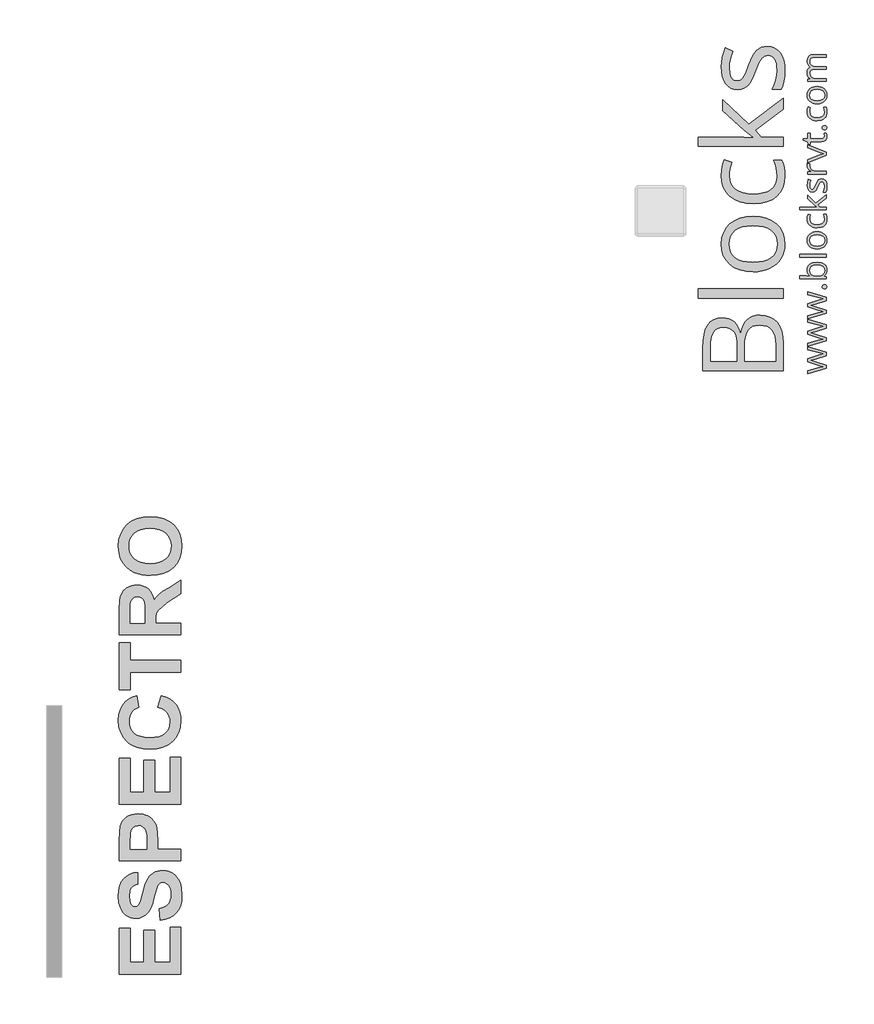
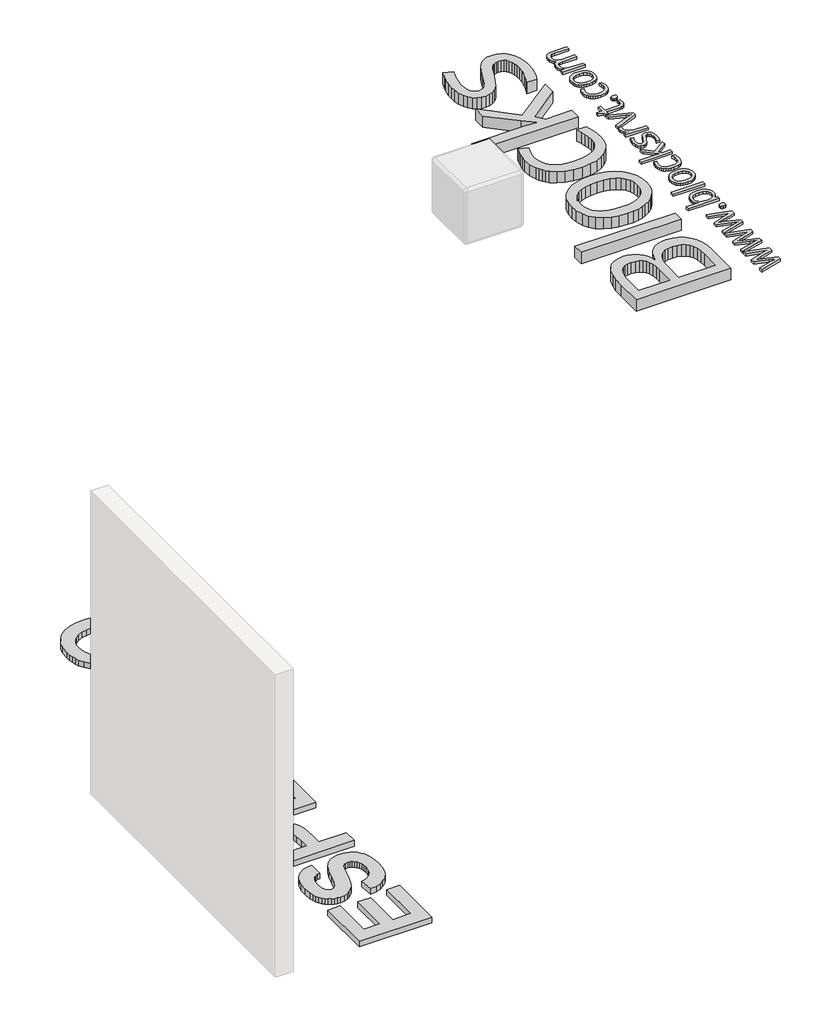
# One storey, part 9 of 9: 3 proxies.
"""IFC4 building model written with IfcOpenShell, lengths in millimetres."""

from ifc_helpers import new_model, si_unit, origin, origin_with_axes, place, context, project, spatial, polyline, outline, extrude, element, save

model = new_model("IFC4")

# Units and contexts
model_context = context("Model", 3, world=origin())
ifc_project = project(units=[si_unit("LENGTHUNIT", "METRE", prefix="MILLI")], contexts=[model_context])

# Site, building, storey
site = spatial("IfcSite", under=ifc_project)
building = spatial("IfcBuilding", under=site)
storey = spatial("IfcBuildingStorey", under=building, Name="PORTOBELLO - SHOWROOM", Elevation=0.0)

# Proxies
placement = place(None, origin())
element("IfcBuildingElementProxy", 1, Name="25mm OpenSans", ObjectType="25mm OpenSans", at=placement, inside=storey, context=model_context, shape_type="SweptSolid", body=[
    extrude(outline(polyline([(135430.4102045, 12378.2707391), (135320.5985611, 12343.7906327), (135274.8749417, 12331.5726819), (135320.9733449, 12318.1554231), (135430.4102045, 12282.6259221), (135430.4102045, 12249.7199075), (135243.3181486, 12198.3745316), (135243.3181486, 12228.2073193), (135350.6562191, 12255.941318), (135400.3525464, 12266.8850039), (135375.1670774, 12274.3057225), (135350.6562191, 12281.6514843), (135243.3181486, 12316.1315908), (135243.3181486, 12347.013773), (135350.7311759, 12380.6693552), (135400.0527194, 12393.7118302), (135381.0886609, 12398.8088895), (135243.3181486, 12434.5632607), (135243.3181486, 12464.0962214), (135430.4102045, 12412.0762348), (135430.4102045, 12378.2707391)])), origin_with_axes(), (0.0, 0.0, 1.0), 20.0),
    extrude(outline(polyline([(135430.4102045, 12651.7129745), (135320.5985611, 12617.2328681), (135274.8749417, 12605.0149173), (135320.9733449, 12591.5976585), (135430.4102045, 12556.0681575), (135430.4102045, 12523.1621429), (135243.3181486, 12471.816767), (135243.3181486, 12501.6495548), (135350.6562191, 12529.3835534), (135400.3525464, 12540.3272394), (135375.1670774, 12547.7479579), (135350.6562191, 12555.0937197), (135243.3181486, 12589.5738262), (135243.3181486, 12620.4560085), (135350.7311759, 12654.1115906), (135400.0527194, 12667.1540657), (135381.0886609, 12672.2511249), (135243.3181486, 12708.0054961), (135243.3181486, 12737.5384569), (135430.4102045, 12685.5184702), (135430.4102045, 12651.7129745)])), origin_with_axes(), (0.0, 0.0, 1.0), 20.0),
    extrude(outline(polyline([(135430.4102045, 12925.1552099), (135320.5985611, 12890.6751035), (135274.8749417, 12878.4571527), (135320.9733449, 12865.0398939), (135430.4102045, 12829.5103929), (135430.4102045, 12796.6043783), (135243.3181486, 12745.2590024), (135243.3181486, 12775.0917902), (135350.6562191, 12802.8257888), (135400.3525464, 12813.7694748), (135375.1670774, 12821.1901934), (135350.6562191, 12828.5359552), (135243.3181486, 12863.0160616), (135243.3181486, 12893.8982439), (135350.7311759, 12927.553826), (135400.0527194, 12940.5963011), (135381.0886609, 12945.6933603), (135243.3181486, 12981.4477315), (135243.3181486, 13010.9806923), (135430.4102045, 12958.9607056), (135430.4102045, 12925.1552099)])), origin_with_axes(), (0.0, 0.0, 1.0), 20.0),
    extrude(outline(polyline([(135411.2962324, 13040.1388692), (135400.8866133, 13041.4412428), (135393.34409, 13045.3483636), (135388.7623585, 13051.6915788), (135387.2351146, 13060.3022358), (135388.7623585, 13069.1658719), (135393.34409, 13075.8182837), (135400.8866133, 13079.9783835), (135411.2962324, 13081.3650835), (135421.4997204, 13079.9502748), (135429.0235045, 13075.7058486), (135433.6614536, 13069.025328), (135435.2074367, 13060.3022358), (135429.6231585, 13045.8730609), (135422.249288, 13041.5724172), (135411.2962324, 13040.1388692)])), origin_with_axes(), (0.0, 0.0, 1.0), 20.0),
    extrude(outline(polyline([(135238.5209164, 13228.5051899), (135240.1207746, 13246.0895757), (135244.9203492, 13261.5892268), (135252.9196402, 13275.0041432), (135264.1186476, 13286.3343249), (135278.2409684, 13295.3361625), (135295.0101995, 13301.7660465), (135336.4893928, 13306.9099536), (135378.10913, 13301.7191985), (135394.9978234, 13295.2307545), (135409.2724001, 13286.146933), (135420.6189786, 13274.7628761), (135428.7236775, 13261.3737261), (135433.5864969, 13245.9794829), (135435.2074367, 13228.5801466), (135433.4928009, 13210.9372009), (135428.3488937, 13194.8870861), (135419.6445408, 13180.8795428), (135407.2485677, 13169.3643116), (135407.2485677, 13167.2655226), (135430.4102045, 13161.2689823), (135430.4102045, 13140.9557022), (135166.5624334, 13140.9557022), (135166.5624334, 13169.2893549), (135229.1513223, 13169.2893549), (135266.9295259, 13167.9401333), (135254.5007592, 13180.4953895), (135245.6230688, 13194.1000402), (135240.2964545, 13210.103307), (135238.5209164, 13228.5051899)]), holes=[polyline([(135262.5070774, 13224.532482), (135266.742134, 13199.2626866), (135279.4473036, 13182.2193948), (135302.177939, 13172.5218649), (135336.4893928, 13169.2893549), (135370.9413904, 13172.6155608), (135393.9437441, 13182.5941786), (135406.9018928, 13199.899819), (135411.2212756, 13225.2070927), (135406.3771955, 13248.2844031), (135391.844955, 13264.5968665), (135368.2429473, 13274.2943964), (135336.1895658, 13277.5269064), (135303.7426613, 13274.2943964), (135280.7590468, 13264.5968665), (135267.0700698, 13248.1157504), (135262.5070774, 13224.532482)])]), origin_with_axes(), (0.0, 0.0, 1.0), 20.0),
    extrude(outline(polyline([(135430.4102045, 13384.1903661), (135430.4102045, 13355.8567134), (135166.5624334, 13355.8567134), (135166.5624334, 13384.1903661), (135430.4102045, 13384.1903661)])), origin_with_axes(), (0.0, 0.0, 1.0), 20.0),
    extrude(outline(polyline([(135336.714263, 13609.1355823), (135358.6414557, 13607.6950072), (135378.0248036, 13603.3732819), (135394.8643067, 13596.1704064), (135409.1599649, 13586.0863807), (135420.5557338, 13573.4678798), (135428.6955687, 13558.6615786), (135433.5794697, 13541.6674773), (135435.2074367, 13522.4855756), (135432.2185361, 13498.7898721), (135423.2518345, 13477.9237859), (135408.7008548, 13460.6931023), (135388.95912, 13447.9036063), (135364.7293495, 13439.9769296), (135336.714263, 13437.3347041), (135314.7964399, 13438.7635672), (135295.4412008, 13443.0501565), (135278.6485457, 13450.194472), (135264.4184746, 13460.1965138), (135253.0882929, 13472.7377156), (135244.995306, 13487.4995111), (135240.1395138, 13504.4819005), (135238.5209164, 13523.6848837), (135240.1769922, 13542.2811857), (135245.1452195, 13558.8677097), (135253.4255983, 13573.4444558), (135265.0181287, 13586.0114239), (135279.4355917, 13596.1282432), (135296.1907684, 13603.3545427), (135315.2836588, 13607.6903224), (135336.714263, 13609.1355823)]), holes=[polyline([(135336.4893928, 13466.7927081), (135368.6458399, 13470.371893), (135392.1073036, 13481.1094479), (135406.4427826, 13498.7805025), (135411.2212756, 13523.1601864), (135406.4615218, 13547.5586096), (135392.1822604, 13565.2858817), (135368.7395358, 13576.0796541), (135336.4893928, 13579.6775783), (135304.5671855, 13576.0796541), (135281.3587008, 13565.2858817), (135267.2199833, 13547.4649136), (135262.5070774, 13522.7854027), (135267.1543961, 13498.4525667), (135281.0963522, 13480.922056), (135304.2392497, 13470.3250451), (135336.4893928, 13466.7927081)])]), origin_with_axes(), (0.0, 0.0, 1.0), 20.0),
    extrude(outline(polyline([(135435.2074367, 13734.5382303), (135433.6216328, 13715.1947031), (135428.8642214, 13698.1654658), (135420.9352024, 13683.4505182), (135409.8345757, 13671.0498604), (135395.8340597, 13661.2117865), (135379.2053725, 13654.1845909), (135338.0634846, 13648.5628344), (135315.6162794, 13649.9893551), (135295.8722022, 13654.2689172), (135278.8312528, 13661.4015208), (135264.4934314, 13671.3871657), (135253.1304561, 13684.0103514), (135245.0140452, 13699.0555772), (135240.1441986, 13716.5228431), (135238.5209164, 13736.4121491), (135241.2943163, 13763.6589288), (135247.8155538, 13784.9841251), (135271.2770176, 13776.214185), (135265.0181287, 13755.4886428), (135262.5070774, 13735.6625816), (135267.1965593, 13710.4443189), (135281.2650049, 13692.4312742), (135304.7124142, 13681.6234473), (135337.5387873, 13678.0208384), (135369.0018844, 13681.5344362), (135392.1822604, 13692.0752296), (135406.4615218, 13709.5120443), (135411.2212756, 13733.713706), (135408.6914852, 13757.6811278), (135401.102114, 13782.2107252), (135425.7628858, 13782.2107252), (135432.8462989, 13760.8105722), (135435.2074367, 13734.5382303)])), origin_with_axes(), (0.0, 0.0, 1.0), 20.0),
    extrude(outline(polyline([(135336.5643495, 13853.7944245), (135308.6804374, 13876.6562342), (135243.3181486, 13936.6216367), (135243.3181486, 13969.9773918), (135323.072134, 13894.7208117), (135430.4102045, 13975.2243646), (135430.4102045, 13941.1190419), (135344.0600248, 13875.5318829), (135362.0496456, 13854.543992), (135430.4102045, 13854.543992), (135430.4102045, 13826.5101663), (135166.5624334, 13826.5101663), (135166.5624334, 13854.543992), (135307.5560861, 13854.543992), (135336.5643495, 13853.7944245)])), origin_with_axes(), (0.0, 0.0, 1.0), 20.0),
    extrude(outline(polyline([(135379.9643096, 14135.4819028), (135403.4538821, 14130.581605), (135420.8532184, 14115.8807118), (135431.6188821, 14092.3349217), (135435.2074367, 14060.8999334), (135432.2466449, 14027.6003958), (135423.3642697, 14002.5086227), (135396.829579, 14002.5086227), (135407.3610029, 14031.6667997), (135411.2212756, 14061.6495009), (135409.4410528, 14081.4661925), (135404.1003841, 14096.092129), (135395.1055737, 14105.1150481), (135382.3629257, 14108.1226879), (135372.0751113, 14105.7334414), (135363.3988672, 14098.5657018), (135344.8095924, 14061.3496739), (135327.5695392, 14023.9462541), (135310.8916616, 14007.41829), (135288.5170708, 14001.9839254), (135267.7915285, 14006.6687225), (135251.9381752, 14020.7231137), (135241.8752311, 14042.947791), (135238.5209164, 14072.1434464), (135241.6316217, 14102.1823652), (135250.9637375, 14131.5841516), (135274.1253742, 14121.3900332), (135265.4116516, 14094.3306453), (135262.5070774, 14069.9697005), (135264.109278, 14052.1487325), (135268.9158798, 14039.3123885), (135276.5520991, 14031.5543645), (135286.6431519, 14028.9683566), (135299.6481486, 14032.8286293), (135309.842267, 14045.3089287), (135323.8966583, 14078.3648569), (135336.2270441, 14106.4455305), (135348.6323868, 14123.6762141), (135362.686778, 14132.5304806), (135379.9643096, 14135.4819028)])), origin_with_axes(), (0.0, 0.0, 1.0), 20.0),
    extrude(outline(polyline([(135238.5209164, 14267.9304855), (135240.3948353, 14290.567425), (135265.055607, 14286.5947171), (135262.5070774, 14265.9066532), (135267.2012441, 14244.5720873), (135281.2837441, 14226.5918362), (135302.3747005, 14214.3645158), (135328.0942364, 14210.2887424), (135430.4102045, 14210.2887424), (135430.4102045, 14181.9550897), (135243.3181486, 14181.9550897), (135243.3181486, 14205.3415967), (135276.898774, 14208.5647371), (135260.576941, 14221.5509945), (135248.4901646, 14235.3242979), (135241.0132285, 14250.8965634), (135238.5209164, 14267.9304855)])), origin_with_axes(), (0.0, 0.0, 1.0), 20.0),
    extrude(outline(polyline([(135430.4102045, 14367.5480104), (135243.3181486, 14295.5895274), (135243.3181486, 14326.396753), (135354.2541433, 14367.2481834), (135404.7749949, 14383.4388421), (135367.2966183, 14396.8561009), (135243.3181486, 14442.2798933), (135243.3181486, 14473.0871189), (135430.4102045, 14401.1286358), (135430.4102045, 14367.5480104)])), origin_with_axes(), (0.0, 0.0, 1.0), 20.0),
    extrude(outline(polyline([(135411.2212756, 14564.4594009), (135410.0969244, 14579.1509245), (135407.773265, 14590.3944375), (135429.9604639, 14590.3944375), (135433.7083016, 14576.6773517), (135435.2074367, 14560.4117363), (135431.6469909, 14536.4068361), (135420.9656536, 14519.2604788), (135403.1634247, 14508.9726644), (135378.2403043, 14505.543393), (135267.3043096, 14505.543393), (135267.3043096, 14478.4090483), (135253.2873968, 14478.4090483), (135241.1444028, 14505.3934795), (135200.1430588, 14517.4615167), (135200.1430588, 14533.9520024), (135243.3181486, 14533.9520024), (135243.3181486, 14589.0452159), (135267.3043096, 14589.0452159), (135267.3043096, 14533.9520024), (135376.5162989, 14533.9520024), (135391.3483665, 14535.9852043), (135402.2639437, 14542.0848101), (135408.9819426, 14551.7448617), (135411.2212756, 14564.4594009)])), origin_with_axes(), (0.0, 0.0, 1.0), 20.0),
    extrude(outline(polyline([(135411.2962324, 14623.2254954), (135400.8866133, 14624.527869), (135393.34409, 14628.4349897), (135388.7623585, 14634.778205), (135387.2351146, 14643.388862), (135388.7623585, 14652.252498), (135393.34409, 14658.9049099), (135400.8866133, 14663.0650097), (135411.2962324, 14664.4517096), (135421.4997204, 14663.0369009), (135429.0235045, 14658.7924747), (135433.6614536, 14652.1119541), (135435.2074367, 14643.388862), (135429.6231585, 14628.959687), (135422.249288, 14624.6590433), (135411.2962324, 14623.2254954)])), origin_with_axes(), (0.0, 0.0, 1.0), 20.0),
    extrude(outline(polyline([(135435.2074367, 14799.5237787), (135433.6216328, 14780.1802516), (135428.8642214, 14763.1510143), (135420.9352024, 14748.4360667), (135409.8345757, 14736.0354088), (135395.8340597, 14726.197335), (135379.2053725, 14719.1701394), (135338.0634846, 14713.5483829), (135315.6162794, 14714.9749036), (135295.8722022, 14719.2544657), (135278.8312528, 14726.3870693), (135264.4934314, 14736.3727142), (135253.1304561, 14748.9958999), (135245.0140452, 14764.0411257), (135240.1441986, 14781.5083916), (135238.5209164, 14801.3976976), (135241.2943163, 14828.6444773), (135247.8155538, 14849.9696736), (135271.2770176, 14841.1997335), (135265.0181287, 14820.4741912), (135262.5070774, 14800.64813), (135267.1965593, 14775.4298674), (135281.2650049, 14757.4168227), (135304.7124142, 14746.6089958), (135337.5387873, 14743.0063869), (135369.0018844, 14746.5199847), (135392.1822604, 14757.0607781), (135406.4615218, 14774.4975928), (135411.2212756, 14798.6992545), (135408.6914852, 14822.6666763), (135401.102114, 14847.1962737), (135425.7628858, 14847.1962737), (135432.8462989, 14825.7961207), (135435.2074367, 14799.5237787)])), origin_with_axes(), (0.0, 0.0, 1.0), 20.0),
    extrude(outline(polyline([(135336.714263, 15053.1024746), (135358.6414557, 15051.6618995), (135378.0248036, 15047.3401742), (135394.8643067, 15040.1372987), (135409.1599649, 15030.053273), (135420.5557338, 15017.4347721), (135428.6955687, 15002.6284709), (135433.5794697, 14985.6343696), (135435.2074367, 14966.452468), (135432.2185361, 14942.7567644), (135423.2518345, 14921.8906782), (135408.7008548, 14904.6599946), (135388.95912, 14891.8704986), (135364.7293495, 14883.943822), (135336.714263, 14881.3015964), (135314.7964399, 14882.7304595), (135295.4412008, 14887.0170488), (135278.6485457, 14894.1613644), (135264.4184746, 14904.1634061), (135253.0882929, 14916.7046079), (135244.995306, 14931.4664034), (135240.1395138, 14948.4487928), (135238.5209164, 14967.651776), (135240.1769922, 14986.248078), (135245.1452195, 15002.834602), (135253.4255983, 15017.4113481), (135265.0181287, 15029.9783162), (135279.4355917, 15040.0951355), (135296.1907684, 15047.321435), (135315.2836588, 15051.6572147), (135336.714263, 15053.1024746)]), holes=[polyline([(135336.4893928, 14910.7596004), (135368.6458399, 14914.3387854), (135392.1073036, 14925.0763402), (135406.4427826, 14942.7473948), (135411.2212756, 14967.1270787), (135406.4615218, 14991.5255019), (135392.1822604, 15009.252774), (135368.7395358, 15020.0465465), (135336.4893928, 15023.6444706), (135304.5671855, 15020.0465465), (135281.3587008, 15009.252774), (135267.2199833, 14991.4318059), (135262.5070774, 14966.752295), (135267.1543961, 14942.419459), (135281.0963522, 14924.8889484), (135304.2392497, 14914.2919374), (135336.4893928, 14910.7596004)])]), origin_with_axes(), (0.0, 0.0, 1.0), 20.0),
    extrude(outline(polyline([(135430.4102045, 15342.1357147), (135307.6310428, 15342.1357147), (135287.889308, 15339.7370986), (135273.7880688, 15332.5412503), (135265.3273253, 15320.2858211), (135262.5070774, 15302.7084625), (135266.3392414, 15279.6405217), (135277.8357335, 15263.5060806), (135297.2963805, 15254.0053122), (135325.0210095, 15250.8383893), (135430.4102045, 15250.8383893), (135430.4102045, 15222.4297799), (135307.6310428, 15222.4297799), (135287.889308, 15220.0311638), (135273.7880688, 15212.8353155), (135265.3273253, 15200.542408), (135262.5070774, 15182.8526143), (135266.5360029, 15159.6722383), (135278.6227794, 15143.6502324), (135299.8730189, 15134.3181166), (135331.3923336, 15131.2074113), (135430.4102045, 15131.2074113), (135430.4102045, 15102.8737587), (135243.3181486, 15102.8737587), (135243.3181486, 15125.9604386), (135267.3043096, 15130.5328006), (135255.2269028, 15141.6170304), (135246.1290269, 15154.6313967), (135240.422944, 15170.1568142), (135238.5209164, 15187.4249762), (135240.4885312, 15207.5227556), (135246.3913755, 15223.8164798), (135256.2294494, 15236.3061488), (135270.0027528, 15244.9917626), (135256.9790169, 15256.6194289), (135246.9910295, 15270.6644505), (135240.6384447, 15287.7077423), (135238.5209164, 15306.9809974), (135242.6247987, 15334.8368008), (135254.9364454, 15354.6909708), (135276.2803808, 15366.5809858), (135307.4811293, 15370.5443241), (135430.4102045, 15370.5443241), (135430.4102045, 15342.1357147)])), origin_with_axes(), (0.0, 0.0, 1.0), 20.0),
])
element("IfcBuildingElementProxy", 2, Name="600mm Arial", ObjectType="600mm Arial", at=placement, inside=storey, context=model_context, shape_type="SweptSolid", body=[
    extrude(outline(polyline([(129012.9424461, 6228.4139266), (128400.7868062, 6228.4139266), (128400.7868062, 6685.1014675), (128507.6711243, 6685.1014675), (128507.6711243, 6345.0150009), (128643.7057109, 6345.0150009), (128643.7057109, 6665.6679551), (128750.590029, 6665.6679551), (128750.590029, 6345.0150009), (128906.0581281, 6345.0150009), (128906.0581281, 6694.8182237), (129012.9424461, 6694.8182237), (129012.9424461, 6228.4139266)])), origin_with_axes(), (0.0, 0.0, 1.0), 50.0),
    extrude(outline(polyline([(128808.8905662, 6762.835517), (128799.17381, 6879.4365913), (128827.2423303, 6886.496422), (128851.3254623, 6896.4409146), (128871.4232061, 6909.2700693), (128887.5355616, 6924.9838859), (128899.8902652, 6943.6298097), (128908.7150536, 6965.2552856), (128914.0099266, 6989.8603138), (128915.7748842, 7017.4448941), (128914.2139405, 7046.4338493), (128909.5311093, 7071.6082186), (128901.7263906, 7092.968002), (128890.7997843, 7110.5131995), (128877.7855938, 7124.1963659), (128863.7181221, 7133.9700562), (128848.5973692, 7139.8342704), (128832.423335, 7141.7890084), (128812.5912838, 7138.5437637), (128795.9095872, 7128.8080295), (128781.8089039, 7110.9496944), (128769.7198928, 7083.336647), (128743.7579348, 6982.2216529), (128731.0900935, 6935.2889614), (128716.9229871, 6895.9095295), (128701.2566155, 6864.0833574), (128684.0909788, 6839.810445), (128657.5122346, 6814.6360757), (128628.1816747, 6796.6543833), (128596.099299, 6785.8653679), (128561.2651076, 6782.2690294), (128538.339636, 6783.9201188), (128516.1732859, 6788.8733871), (128494.7660574, 6797.1288343), (128474.1179505, 6808.6864603), (128455.0545099, 6823.3564848), (128438.4012803, 6840.9491273), (128424.1582617, 6861.464388), (128412.3254541, 6884.9022667), (128403.0262148, 6911.0824721), (128396.383901, 6939.8247128), (128391.07005, 7004.9953002), (128394.3817179, 7058.9071657), (128404.3167215, 7105.7117555), (128420.8750609, 7145.4090695), (128444.0567361, 7177.9991077), (128472.7610207, 7203.5862493), (128505.8871886, 7222.2748737), (128543.4352396, 7234.0649807), (128585.4051738, 7238.9565703), (128585.4051738, 7122.3554961), (128563.7369973, 7117.0843456), (128545.3425325, 7109.4694073), (128530.2217796, 7099.5106811), (128518.3747385, 7087.208167), (128509.4408264, 7072.049458), (128503.0594607, 7053.522147), (128497.9543681, 7006.361719), (128503.3820873, 6956.7151679), (128510.1667364, 6936.4466218), (128519.6652452, 6919.214562), (128535.9863591, 6903.9562183), (128557.0140268, 6898.8701037), (128576.865056, 6903.5007453), (128593.6036868, 6917.3926702), (128603.3251875, 6933.3579458), (128613.2080015, 6957.721004), (128633.4575696, 7031.6404676), (128654.5231934, 7110.5321775), (128676.5756752, 7165.7772503), (128703.2777767, 7204.4924507), (128738.2922595, 7233.7945436), (128759.0257675, 7244.555092), (128782.0556184, 7252.2411979), (128807.381812, 7256.8528615), (128835.0043484, 7258.3900827), (128860.7006138, 7256.5729354), (128885.5618455, 7251.1214936), (128909.5880434, 7242.0357572), (128932.7792076, 7229.3157263), (128954.0915459, 7213.269794), (128972.4812661, 7194.2063534), (128987.9483682, 7172.1254045), (129000.4928523, 7147.0269473), (129010.1906304, 7118.7828801), (129017.1176148, 7087.2651011), (129022.6592023, 7014.4084078), (129019.2478997, 6959.9224565), (129009.013992, 6912.1547313), (128991.957479, 6871.105232), (128968.0783609, 6836.7739587), (128937.6613082, 6808.9236858), (128900.9909915, 6787.3171879), (128858.0674108, 6771.954465), (128808.8905662, 6762.835517)])), origin_with_axes(), (0.0, 0.0, 1.0), 50.0),
    extrude(outline(polyline([(129012.9424461, 7355.5576446), (128400.7868062, 7355.5576446), (128400.7868062, 7552.7774304), (128403.0641709, 7645.4282189), (128409.8962651, 7698.9842462), (128418.744776, 7724.1064259), (128431.6261202, 7747.0935762), (128448.5402979, 7767.945697), (128469.4873089, 7786.6627884), (128494.1160596, 7802.106168), (128522.0754562, 7813.1371534), (128553.3654987, 7819.7557447), (128587.9861871, 7821.9619417), (128639.5495203, 7816.780937), (128661.9863074, 7810.304681), (128682.1931749, 7801.2379227), (128716.2777337, 7777.7051538), (128742.1637795, 7748.5548852), (128760.2878072, 7716.3491523), (128771.0863116, 7683.6499903), (128777.5768011, 7628.8034564), (128779.7402976, 7553.8402006), (128779.7402976, 7472.1587189), (129012.9424461, 7472.1587189), (129012.9424461, 7355.5576446)]), holes=[polyline([(128507.6711243, 7472.1587189), (128672.8559795, 7472.1587189), (128672.8559795, 7544.5789174), (128670.5786148, 7609.8064389), (128663.7465206, 7649.1099586), (128652.0370702, 7672.6047714), (128635.1276371, 7690.4061724), (128614.0430353, 7701.6221937), (128589.8080789, 7705.3608675), (128560.8475908, 7700.1039505), (128537.4286901, 7684.3331998), (128520.6521032, 7660.5537164), (128511.6185565, 7631.2706015), (128507.6711243, 7536.0767557), (128507.6711243, 7472.1587189)])]), origin_with_axes(), (0.0, 0.0, 1.0), 50.0),
    extrude(outline(polyline([(129012.9424461, 7919.1295036), (128400.7868062, 7919.1295036), (128400.7868062, 8375.8170446), (128507.6711243, 8375.8170446), (128507.6711243, 8035.7305779), (128643.7057109, 8035.7305779), (128643.7057109, 8356.3835322), (128750.590029, 8356.3835322), (128750.590029, 8035.7305779), (128906.0581281, 8035.7305779), (128906.0581281, 8385.5338008), (129012.9424461, 8385.5338008), (129012.9424461, 7919.1295036)])), origin_with_axes(), (0.0, 0.0, 1.0), 50.0),
    extrude(outline(polyline([(128779.7402976, 8881.0883665), (128818.6073223, 8997.6894407), (128864.7097246, 8981.5865743), (128904.4829508, 8960.9100003), (128937.9270008, 8935.6597189), (128965.0418746, 8905.8357299), (128985.9983747, 8871.5613907), (129000.9673033, 8832.9600585), (129009.9486604, 8790.0317333), (129012.9424461, 8742.7764151), (129007.8278645, 8684.3904767), (128992.4841196, 8631.4512357), (128966.9112115, 8583.9586921), (128931.1091401, 8541.9128457), (128886.4348353, 8507.5056602), (128834.2452268, 8482.9290991), (128774.5403148, 8468.1831625), (128707.3200991, 8463.2678503), (128636.4371218, 8468.2258631), (128573.942438, 8483.0999015), (128519.8360475, 8507.8899655), (128495.9284624, 8524.0035071), (128474.1179505, 8542.5960551), (128437.784494, 8585.3867895), (128411.8320251, 8634.4307879), (128396.2605438, 8689.7280503), (128391.07005, 8751.2785767), (128395.3495979, 8805.1002966), (128408.1882415, 8853.6081654), (128429.585981, 8896.8021831), (128459.5428163, 8934.6823498), (128481.9463918, 8954.3910438), (128508.7718505, 8971.4617902), (128540.0191925, 8985.8945892), (128575.6884176, 8997.6894407), (128595.12193, 8881.0883665), (128573.7668911, 8873.7391207), (128554.7935962, 8863.2300314), (128538.2020452, 8849.5610985), (128523.9922382, 8832.732322), (128512.60067, 8813.3320212), (128504.4638356, 8791.9485152), (128499.5817349, 8768.5818042), (128497.9543681, 8743.231888), (128500.9101977, 8708.5827325), (128509.7776866, 8677.3591131), (128524.5568348, 8649.5610299), (128545.2476423, 8625.1884827), (128572.5522966, 8605.361176), (128607.172985, 8591.1988141), (128649.1097076, 8582.701397), (128698.3624645, 8579.8689246), (128750.4951388, 8582.6159958), (128794.5431683, 8590.8572094), (128830.5065531, 8604.5925654), (128858.385293, 8623.8220639), (128879.2421583, 8647.4544675), (128894.1399193, 8674.398539), (128903.0785759, 8704.6542784), (128906.0581281, 8738.2216856), (128904.1555796, 8763.211019), (128898.4479342, 8786.4069277), (128888.935192, 8807.8094117), (128875.6173528, 8827.4184709), (128858.2097461, 8844.8070996), (128836.4277014, 8859.5482917), (128810.2712185, 8871.6420473), (128779.7402976, 8881.0883665)])), origin_with_axes(), (0.0, 0.0, 1.0), 50.0),
    extrude(outline(polyline([(129012.9424461, 9230.8915893), (128507.6711243, 9230.8915893), (128507.6711243, 9055.9899779), (128400.7868062, 9055.9899779), (128400.7868062, 9522.394275), (128507.6711243, 9522.394275), (128507.6711243, 9347.4926636), (129012.9424461, 9347.4926636), (129012.9424461, 9230.8915893)])), origin_with_axes(), (0.0, 0.0, 1.0), 50.0),
    extrude(outline(polyline([(129012.9424461, 9600.1283245), (128400.7868062, 9600.1283245), (128400.7868062, 9857.6223636), (128404.9240188, 9941.5052979), (128410.0955345, 9973.4832943), (128417.3356566, 9998.8189769), (128427.2232151, 10019.7327764), (128440.3370403, 10038.4451233), (128456.6771323, 10054.9560176), (128476.243491, 10069.2654593), (128498.1915936, 10080.8230853), (128521.6769174, 10089.0785325), (128546.6994624, 10094.0318008), (128573.2592285, 10095.6828902), (128606.3664183, 10093.2964018), (128636.4560999, 10086.1369364), (128663.5282731, 10074.2044941), (128687.5829381, 10057.4990749), (128708.0412646, 10036.0396568), (128724.3244224, 10009.8452179), (128736.4324116, 9978.9157581), (128744.3652321, 9943.2512775), (128768.7330347, 9977.0701438), (128795.3782021, 10004.4364766), (128833.9795343, 10032.7517115), (128894.2158314, 10069.4172836), (129012.9424461, 10144.2666712), (129012.9424461, 10008.0802602), (128873.1122516, 9919.41486), (128819.423378, 9876.581425), (128790.1402632, 9849.8034113), (128775.7359313, 9830.4837672), (128766.6834064, 9810.0254407), (128761.9009405, 9782.8678662), (128760.3067852, 9743.4504783), (128760.3067852, 9716.7293988), (129012.9424461, 9716.7293988), (129012.9424461, 9600.1283245)]), holes=[polyline([(128653.4224671, 9716.7293988), (128653.4224671, 9812.8341905), (128651.6575094, 9888.6894141), (128646.3626364, 9929.5111769), (128636.7597485, 9950.2731521), (128622.070746, 9965.9490126), (128602.6941677, 9975.7986151), (128579.0285525, 9979.0818159), (128552.8198801, 9974.7548229), (128532.1907512, 9961.773844), (128517.634595, 9940.8980006), (128509.6448404, 9912.8864144), (128507.6711243, 9818.1480415), (128507.6711243, 9716.7293988), (128653.4224671, 9716.7293988)])]), origin_with_axes(), (0.0, 0.0, 1.0), 50.0),
    extrude(outline(polyline([(128710.660234, 10192.8504521), (128665.8530829, 10194.5679647), (128624.8035836, 10199.7205024), (128587.5117362, 10208.3080652), (128553.9775405, 10220.3306532), (128509.7397306, 10244.5656096), (128470.2464305, 10276.2779135), (128437.9268293, 10313.4179366), (128415.2101161, 10353.9360508), (128404.6488372, 10383.1052974), (128397.1050665, 10414.4380405), (128392.5788041, 10447.9342801), (128391.07005, 10483.5940162), (128396.3032444, 10546.6959974), (128412.0028275, 10603.1556647), (128438.1687993, 10652.9730182), (128474.80116, 10696.1480579), (128496.7551932, 10714.8295655), (128520.7517379, 10731.0202054), (128574.8723619, 10755.9288821), (128637.1630318, 10770.8740882), (128707.6237477, 10775.8558235), (128777.6052681, 10770.9120443), (128839.5211218, 10756.0807064), (128893.3713087, 10731.3618101), (128917.2717771, 10715.2945274), (128939.1558288, 10696.7553552), (128975.6885547, 10653.864986), (129001.783359, 10604.294347), (129017.4402415, 10548.0434382), (129022.6592023, 10485.1122594), (129017.463964, 10421.5168493), (129001.8782492, 10364.7914894), (128975.9020577, 10314.9361798), (128939.5353896, 10271.9509205), (128894.0592626, 10237.3444656), (128840.7546944, 10212.6255692), (128779.6216848, 10197.7942314), (128710.660234, 10192.8504521)]), holes=[polyline([(128706.4091532, 10309.4515264), (128754.8316208, 10312.5496913), (128797.0103135, 10321.8441861), (128832.9452311, 10337.3350108), (128862.6363738, 10359.0221654), (128885.8844721, 10385.4822969), (128902.4902566, 10415.2920523), (128912.4537273, 10448.4514317), (128915.7748842, 10484.9604351), (128912.4774499, 10521.4314824), (128902.5851468, 10554.4769935), (128886.0979751, 10584.0969686), (128863.0159346, 10610.2914075), (128833.3390255, 10631.7128695), (128797.0672476, 10647.0139138), (128754.200601, 10656.1945404), (128704.7390857, 10659.2547492), (128655.9655244, 10656.2751971), (128613.7963208, 10647.3365405), (128578.2314749, 10632.4387795), (128549.2709867, 10611.5819142), (128526.819966, 10585.7907586), (128510.7835227, 10556.0901269), (128501.1616567, 10522.480019), (128497.9543681, 10484.9604351), (128501.1996128, 10447.402895), (128510.935347, 10413.678919), (128527.1615708, 10383.7885069), (128549.878284, 10357.7316587), (128579.1329317, 10336.6091008), (128614.9729592, 10321.5215595), (128657.3983664, 10312.4690347), (128706.4091532, 10309.4515264)])]), origin_with_axes(), (0.0, 0.0, 1.0), 50.0),
])
element("IfcBuildingElementProxy", 3, Name="80mm OpenSans", ObjectType="80mm OpenSans", at=placement, inside=storey, context=model_context, shape_type="SweptSolid", body=[
    extrude(outline(polyline([(134201.0267975, 12227.416585), (134201.0267975, 12452.3997056), (134203.9637766, 12526.2298035), (134212.7747141, 12589.0781532), (134227.45961, 12640.9447547), (134248.0184642, 12681.829608), (134274.916987, 12712.7993397), (134308.6208886, 12734.9205767), (134349.1301691, 12748.1933189), (134396.4448285, 12752.6175663), (134430.1036614, 12750.1462974), (134460.6527517, 12742.7324906), (134488.0920993, 12730.376146), (134512.4217042, 12713.0772636), (134533.2059021, 12691.0461641), (134550.0090284, 12664.4931682), (134562.8310833, 12633.4182761), (134571.6720666, 12597.8214876), (134576.9601314, 12597.8214876), (134586.8752529, 12640.3551054), (134600.8766063, 12677.2175742), (134618.9641916, 12708.4088939), (134641.1380088, 12733.9290646), (134667.3980579, 12753.7780862), (134697.7443388, 12767.9559588), (134732.1768517, 12776.4626824), (134770.6955964, 12779.2982569), (134821.9312356, 12774.783872), (134867.2328248, 12761.2407174), (134906.6003641, 12738.6687931), (134940.0338533, 12707.0680991), (134966.6920095, 12667.3700558), (134985.7335497, 12620.5060838), (134997.1584738, 12566.476183), (135000.9667818, 12505.2803536), (135000.9667818, 12227.416585), (134201.0267975, 12227.416585)]), holes=[polyline([(134539.4629447, 12320.4384522), (134539.4629447, 12472.3501319), (134537.5325006, 12517.831996), (134531.7411682, 12556.4483897), (134522.0889477, 12588.1993129), (134508.5758389, 12613.0847656), (134490.4957651, 12631.8558933), (134467.1426494, 12645.2638417), (134438.5164918, 12653.3086107), (134404.6172923, 12655.9902004), (134373.4147054, 12653.0006411), (134346.869221, 12644.031963), (134324.9808391, 12629.0841662), (134307.7495598, 12608.1572506), (134294.7096727, 12580.7254145), (134285.3954677, 12546.2628558), (134279.8069446, 12504.7695746), (134277.9441036, 12456.2455709), (134277.9441036, 12320.4384522), (134539.4629447, 12320.4384522)]), polyline([(134616.3802509, 12320.4384522), (134924.0494756, 12320.4384522), (134924.0494756, 12486.0510271), (134921.6382983, 12531.1573184), (134914.4047665, 12570.3295598), (134902.3488801, 12603.5677512), (134885.4706392, 12630.8718926), (134863.4695855, 12652.1668695), (134836.0452608, 12667.3775672), (134803.1976651, 12676.5039859), (134764.9267984, 12679.5461254), (134729.232361, 12676.4363828), (134698.5856218, 12667.1071548), (134672.9865809, 12651.5584416), (134652.4352381, 12629.790243), (134636.6611812, 12601.6823758), (134625.3939977, 12567.1146568), (134618.6336876, 12526.0870858), (134616.3802509, 12478.599663), (134616.3802509, 12320.4384522)])]), origin_with_axes(), (0.0, 0.0, 1.0), 100.0),
    extrude(outline(polyline([(135000.9667818, 13041.0574645), (135000.9667818, 12950.1988966), (134154.8764137, 12950.1988966), (134154.8764137, 13041.0574645), (135000.9667818, 13041.0574645)])), origin_with_axes(), (0.0, 0.0, 1.0), 100.0),
    extrude(outline(polyline([(134700.5085545, 13762.3975766), (134770.8232911, 13757.7780313), (134832.9805869, 13743.9193956), (134886.9804418, 13720.8216694), (134932.8228558, 13688.4848527), (134969.3660877, 13648.0206409), (134995.4683962, 13600.5407295), (135011.1297813, 13546.0451186), (135016.350243, 13484.533808), (135013.9540887, 13445.4066353), (135006.7656256, 13408.5479223), (134994.7848538, 13373.9576689), (134978.0117732, 13341.6358751), (134956.7618651, 13312.2285261), (134931.3506105, 13286.3816071), (134901.7780095, 13264.0951181), (134868.044062, 13245.3690591), (134830.7121273, 13230.5414455), (134790.3455645, 13219.950293), (134746.9443735, 13213.5956015), (134700.5085545, 13211.477371), (134630.2238637, 13216.059359), (134568.1567054, 13229.8053229), (134514.3070796, 13252.7152627), (134468.6749863, 13284.7891785), (134432.3420752, 13325.0055122), (134406.3899958, 13372.3427059), (134390.8187482, 13426.8007596), (134385.6283323, 13488.3796733), (134390.9389315, 13548.01312), (134406.870729, 13601.2017376), (134433.4237248, 13647.9455263), (134470.597919, 13688.2444861), (134516.8309287, 13720.6864632), (134570.5603712, 13743.859304), (134631.7862465, 13757.7630084), (134700.5085545, 13762.3975766)]), holes=[polyline([(134699.7874548, 13305.9414377), (134754.831402, 13308.8108138), (134802.9047184, 13317.418942), (134844.0074039, 13331.7658223), (134878.1394585, 13351.8514548), (134904.9553553, 13377.4955645), (134924.1095672, 13408.5178765), (134935.6020944, 13444.9183907), (134939.4329368, 13486.6971072), (134935.6171174, 13528.4908466), (134924.1696589, 13564.9364296), (134905.0905615, 13596.0338561), (134878.3798251, 13621.7831262), (134844.322885, 13641.9739191), (134803.2051766, 13656.395914), (134755.0266998, 13665.0491109), (134699.7874548, 13667.9335099), (134645.1115688, 13665.0491109), (134597.4213367, 13656.395914), (134556.7167584, 13641.9739191), (134522.9978338, 13621.7831262), (134496.5499984, 13595.9587416), (134477.6586873, 13564.6359714), (134466.3239007, 13527.8148156), (134462.5456385, 13485.4952743), (134466.2713205, 13443.7541151), (134477.4483666, 13407.4662727), (134496.0767767, 13376.6317471), (134522.1565508, 13351.2505384), (134555.6125744, 13331.4278068), (134596.3697329, 13317.2687128), (134644.4280264, 13308.7732565), (134699.7874548, 13305.9414377)])]), origin_with_axes(), (0.0, 0.0, 1.0), 100.0),
    extrude(outline(polyline([(135016.350243, 14164.530868), (135011.2649875, 14102.501267), (134996.009221, 14047.8929841), (134970.5829436, 14000.7060195), (134934.9861551, 13960.9403732), (134890.0901845, 13929.3922593), (134836.7663606, 13906.8578923), (134775.0146834, 13893.337272), (134704.835153, 13888.8303986), (134632.8528732, 13893.4048751), (134569.5388132, 13907.1283047), (134514.8929731, 13930.0006872), (134468.9153529, 13962.0220228), (134449.3949575, 13981.2907845), (134432.4772814, 14002.5012575), (134418.1623247, 14025.6534417), (134406.4500875, 14050.7473373), (134390.8337711, 14106.7602623), (134385.6283323, 14170.5400325), (134387.8517232, 14214.2567046), (134394.5218958, 14257.913285), (134404.1966507, 14296.8226255), (134415.4337884, 14326.2975776), (134490.6685286, 14298.1746875), (134470.597919, 14231.7133276), (134464.5587086, 14197.8516854), (134462.5456385, 14168.1363667), (134466.3051221, 14124.8140461), (134477.5835728, 14087.2680348), (134496.3809906, 14055.498333), (134522.6973756, 14029.5049406), (134556.5327277, 14009.2878577), (134597.887047, 13994.8470841), (134646.7603334, 13986.18262), (134703.1525869, 13983.2944653), (134756.9195867, 13986.1112612), (134804.0464596, 13994.5616488), (134844.5332057, 14008.6456282), (134878.3798251, 14028.3631994), (134905.0905615, 14053.6092019), (134924.1696589, 14084.2784755), (134935.6171174, 14120.37102), (134939.4329368, 14161.8868356), (134937.4048438, 14200.0900992), (134931.3205647, 14238.7440501), (134921.1800995, 14277.8486884), (134906.9834483, 14317.404014), (134986.0640537, 14317.404014), (134999.3142615, 14285.0446629), (135008.7786957, 14248.7793549), (135014.4573562, 14208.6080899), (135016.350243, 14164.530868)])), origin_with_axes(), (0.0, 0.0, 1.0), 100.0),
    extrude(outline(polyline([(134700.0278213, 14549.1173989), (134610.6114529, 14620.2659071), (134401.0117935, 14812.5591726), (134401.0117935, 14919.5223015), (134656.7618366, 14678.1942533), (135000.9667818, 14936.3479622), (135000.9667818, 14826.9811675), (134724.0644795, 14616.6604084), (134781.7524592, 14549.3577655), (135000.9667818, 14549.3577655), (135000.9667818, 14459.4606639), (134154.8764137, 14459.4606639), (134154.8764137, 14549.3577655), (134607.0059542, 14549.3577655), (134700.0278213, 14544.7908004), (134700.0278213, 14549.1173989)])), origin_with_axes(), (0.0, 0.0, 1.0), 100.0),
    extrude(outline(polyline([(134839.2000722, 15450.2517142), (134879.3037341, 15446.3232229), (134914.5249498, 15434.5377489), (134944.8637193, 15414.8952923), (134970.3200426, 15387.395853), (134990.4582553, 15352.8055996), (135004.8426929, 15311.8907005), (135013.4733555, 15264.6511557), (135016.350243, 15211.0869653), (135013.976623, 15154.4055207), (135006.855763, 15104.3041113), (134994.9876631, 15060.7827371), (134978.3723231, 15023.841398), (134893.2825531, 15023.841398), (134912.4217422, 15068.9702238), (134927.0540579, 15117.3439984), (134936.3382171, 15166.378781), (134939.4329368, 15213.4906311), (134938.0057603, 15247.3447618), (134933.7242305, 15277.0375462), (134926.5883476, 15302.568984), (134916.5981116, 15323.9390754), (134903.6784078, 15340.8173164), (134887.7541217, 15352.8732027), (134868.8252534, 15360.1067345), (134846.8918028, 15362.5179118), (134829.750661, 15360.6024906), (134813.9014895, 15354.856227), (134799.3442884, 15345.279121), (134786.0790576, 15331.8711726), (134758.557084, 15286.7123011), (134726.4681453, 15212.5291648), (134696.7828725, 15140.3590986), (134671.1838315, 15092.5862404), (134646.0354779, 15061.5489055), (134617.7022671, 15039.5854091), (134584.8020912, 15026.5154762), (134545.9528424, 15022.1588319), (134510.769184, 15025.9145598), (134479.4914825, 15037.1817433), (134452.119738, 15055.9603825), (134428.6539504, 15082.2504774), (134409.8302425, 15115.0905616), (134396.3847368, 15153.5191689), (134388.3174334, 15197.5362992), (134385.6283323, 15247.1419525), (134388.1221356, 15295.5607959), (134395.6035454, 15343.4688602), (134408.0725619, 15390.8661456), (134425.5291849, 15437.7526519), (134499.8024587, 15405.0627968), (134483.5025998, 15360.5949792), (134471.8598435, 15318.2904608), (134464.8741897, 15278.1492416), (134462.5456385, 15240.1713217), (134467.6834742, 15183.0241668), (134474.1057688, 15160.4447311), (134483.0969812, 15141.8613897), (134494.3566533, 15127.3492573), (134507.5843268, 15116.9834485), (134522.7800016, 15110.7639632), (134539.9436778, 15108.6908014), (134562.628274, 15111.7855211), (134581.6472798, 15121.0696804), (134598.4128489, 15137.2643788), (134614.3371349, 15161.0907162), (134633.3561407, 15201.4122103), (134659.405869, 15267.0923788), (134679.1459745, 15316.465177), (134698.9461717, 15357.1397096), (134718.8064605, 15389.1159764), (134738.726841, 15412.3939776), (134759.9692377, 15428.9567373), (134783.7955751, 15440.78728), (134810.2058533, 15447.8856056), (134839.2000722, 15450.2517142)])), origin_with_axes(), (0.0, 0.0, 1.0), 100.0),
])

save(model, "model.ifc")
